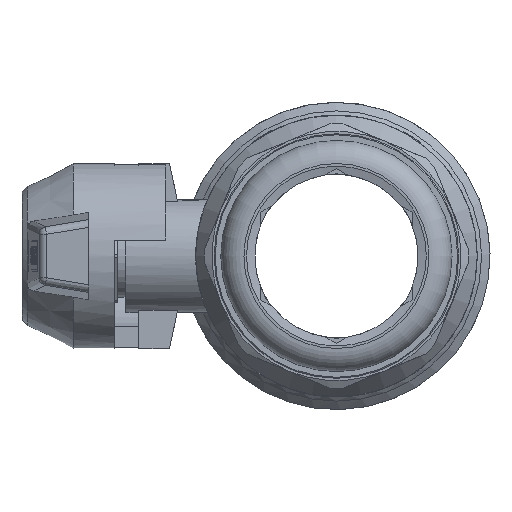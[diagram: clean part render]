
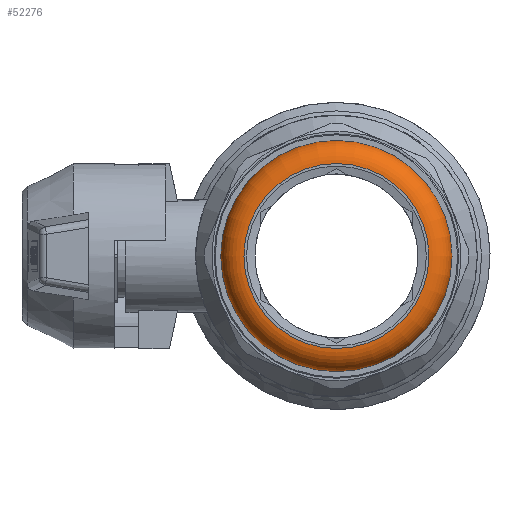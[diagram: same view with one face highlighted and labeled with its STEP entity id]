
A CAD part, left-side view. The second image highlights one B-rep face of the part: STEP entity #52276.
In plain terms, the highlighted toroidal (fillet/blend) face has major radius 18 mm and minor radius 4.5 mm.
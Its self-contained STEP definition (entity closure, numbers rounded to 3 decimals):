
#51986=CARTESIAN_POINT('',(-76.2,0.0,-18.0));
#51987=VERTEX_POINT('',#51986);
#51988=CARTESIAN_POINT('',(-76.2,0.0,0.0));
#51989=DIRECTION('',(1.0,0.0,0.0));
#51990=DIRECTION('',(0.0,0.0,-1.0));
#51991=AXIS2_PLACEMENT_3D('',#51988,#51989,#51990);
#51992=CIRCLE('',#51991,18.);
#51993=EDGE_CURVE('',#51987,#51987,#51992,.T.);
#52253=CARTESIAN_POINT('',(-69.45,0.0,-21.897));
#52254=VERTEX_POINT('',#52253);
#52255=CARTESIAN_POINT('',(-69.45,0.0,0.0));
#52256=DIRECTION('',(1.0,0.0,0.0));
#52257=DIRECTION('',(0.0,0.0,-1.0));
#52258=AXIS2_PLACEMENT_3D('',#52255,#52256,#52257);
#52259=CIRCLE('',#52258,21.897);
#52260=EDGE_CURVE('',#52254,#52254,#52259,.T.);
#52265=CARTESIAN_POINT('',(-71.7,0.,0.));
#52266=DIRECTION('',(1.0,0.0,0.0));
#52267=DIRECTION('',(0.0,0.0,-1.0));
#52268=AXIS2_PLACEMENT_3D('',#52265,#52266,#52267);
#52269=TOROIDAL_SURFACE('',#52268,18.,4.5);
#52270=ORIENTED_EDGE('',*,*,#51993,.T.);
#52271=EDGE_LOOP('',(#52270));
#52272=FACE_OUTER_BOUND('',#52271,.T.);
#52273=ORIENTED_EDGE('',*,*,#52260,.F.);
#52274=EDGE_LOOP('',(#52273));
#52275=FACE_BOUND('',#52274,.T.);
#52276=ADVANCED_FACE('',(#52272,#52275),#52269,.T.);
